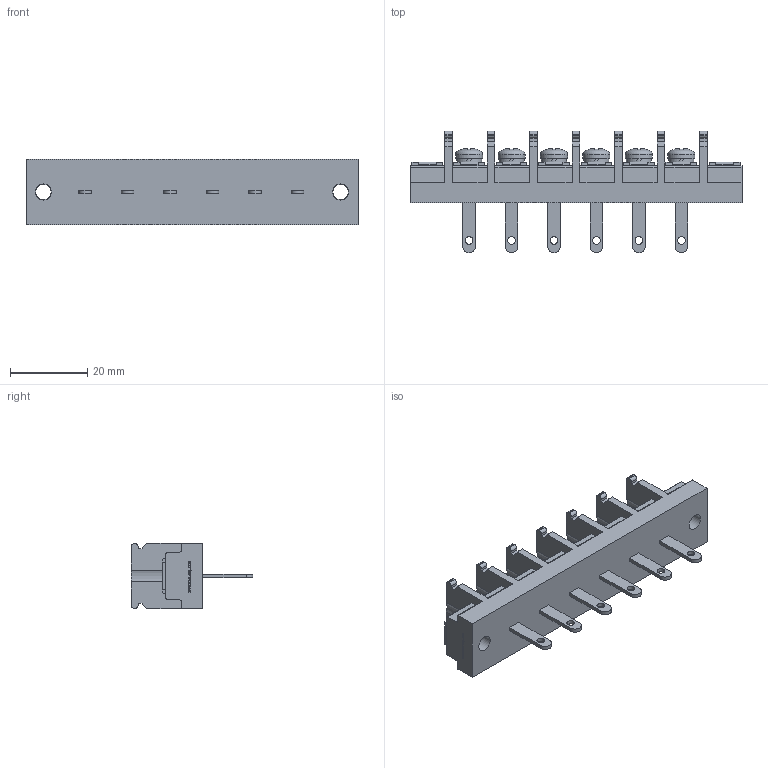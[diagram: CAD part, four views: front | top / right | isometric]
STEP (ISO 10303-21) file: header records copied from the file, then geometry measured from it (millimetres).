
FILE_DESCRIPTION(/* description */ ('Alibre Inc.'),/* implementation_level */ '2;1');
FILE_NAME(/* name */ 'export0',/* time_stamp */ '2015-10-19T19:15:26+09:00',/* author */ (''),/* organization */ (''),/* preprocessor_version */ 'ST-DEVELOPER v14',/* originating_system */ 'Alibre',/* authorisation */ '');
FILE_SCHEMA (('CONFIG_CONTROL_DESIGN'));
Length unit declared in the file: centimetre
Products named in the file (1): ID_1
Bounding box: 86 x 31.5 x 17 mm (x, y, z)
Volume: 15565.9 mm3; surface area: 9240.2 mm2
Topology: 1 solids, 1 shells, 900 faces, 2498 edges, 1662 vertices
Faces by surface type: plane 630, cylinder 124, bspline 104, cone 24, torus 12, sphere 6
Full cylindrical faces by diameter (mm): 2 x6, 4 x8, 4.2 x2, 6.5 x6, 7 x6
Entity records: 27863 total; most frequent: CARTESIAN_POINT 6080, ORIENTED_EDGE 4876, DIRECTION 3545, EDGE_CURVE 2438, VECTOR 1747, LINE 1747, VERTEX_POINT 1636, AXIS2_PLACEMENT_3D 1209
